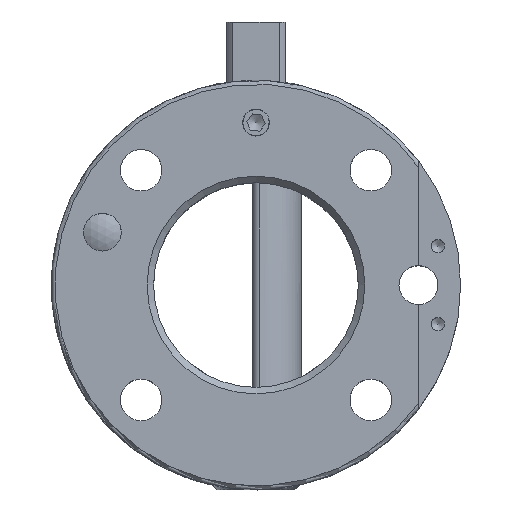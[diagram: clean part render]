
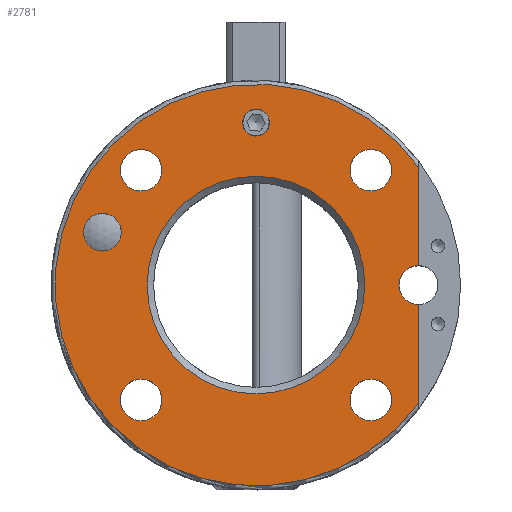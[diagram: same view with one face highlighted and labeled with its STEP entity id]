
A CAD part, top view. The second image highlights one B-rep face of the part: STEP entity #2781.
In plain terms, the highlighted planar face has unit normal (0, 0, 1).
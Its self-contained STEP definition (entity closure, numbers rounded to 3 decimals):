
#543=CARTESIAN_POINT('',(2.067,25.0,0.0));
#544=VERTEX_POINT('',#543);
#545=CARTESIAN_POINT('',(0.0,25.0,0.0));
#546=DIRECTION('',(0.0,0.0,-1.0));
#547=DIRECTION('',(1.0,0.0,0.0));
#548=AXIS2_PLACEMENT_3D('',#545,#546,#547);
#549=CIRCLE('',#548,2.067);
#550=EDGE_CURVE('',#544,#544,#549,.T.);
#2266=CARTESIAN_POINT('',(25.0,18.161,0.0));
#2267=VERTEX_POINT('',#2266);
#2282=CARTESIAN_POINT('',(25.0,-18.161,0.0));
#2283=VERTEX_POINT('',#2282);
#2297=CARTESIAN_POINT('',(0.0,0.0,0.0));
#2298=DIRECTION('',(0.0,0.0,-1.0));
#2299=DIRECTION('',(-1.0,0.0,0.0));
#2300=AXIS2_PLACEMENT_3D('',#2297,#2298,#2299);
#2301=CIRCLE('',#2300,30.9);
#2302=EDGE_CURVE('',#2283,#2267,#2301,.T.);
#2313=CARTESIAN_POINT('',(25.0,3.,0.0));
#2314=VERTEX_POINT('',#2313);
#2315=CARTESIAN_POINT('',(25.0,3.0,0.0));
#2316=DIRECTION('',(0.0,1.0,0.0));
#2317=VECTOR('',#2316,15.161);
#2318=LINE('',#2315,#2317);
#2319=EDGE_CURVE('',#2314,#2267,#2318,.T.);
#2347=CARTESIAN_POINT('',(-20.738,8.139,0.0));
#2348=VERTEX_POINT('',#2347);
#2349=CARTESIAN_POINT('',(-23.638,8.139,0.0));
#2350=DIRECTION('',(0.0,0.0,-1.0));
#2351=DIRECTION('',(-1.0,0.0,0.0));
#2352=AXIS2_PLACEMENT_3D('',#2349,#2350,#2351);
#2353=CIRCLE('',#2352,2.9);
#2354=EDGE_CURVE('',#2348,#2348,#2353,.T.);
#2404=CARTESIAN_POINT('',(-14.478,-17.678,0.0));
#2405=VERTEX_POINT('',#2404);
#2406=CARTESIAN_POINT('',(-17.678,-17.678,0.0));
#2407=DIRECTION('',(0.0,0.0,-1.0));
#2408=DIRECTION('',(-1.0,0.0,0.0));
#2409=AXIS2_PLACEMENT_3D('',#2406,#2407,#2408);
#2410=CIRCLE('',#2409,3.2);
#2411=EDGE_CURVE('',#2405,#2405,#2410,.T.);
#2464=CARTESIAN_POINT('',(-14.478,17.678,0.0));
#2465=VERTEX_POINT('',#2464);
#2466=CARTESIAN_POINT('',(-17.678,17.678,0.0));
#2467=DIRECTION('',(0.0,0.0,-1.0));
#2468=DIRECTION('',(-1.0,0.0,0.0));
#2469=AXIS2_PLACEMENT_3D('',#2466,#2467,#2468);
#2470=CIRCLE('',#2469,3.2);
#2471=EDGE_CURVE('',#2465,#2465,#2470,.T.);
#2530=CARTESIAN_POINT('',(20.878,17.678,0.0));
#2531=VERTEX_POINT('',#2530);
#2532=CARTESIAN_POINT('',(17.678,17.678,0.0));
#2533=DIRECTION('',(0.0,0.0,-1.0));
#2534=DIRECTION('',(-1.0,0.0,0.0));
#2535=AXIS2_PLACEMENT_3D('',#2532,#2533,#2534);
#2536=CIRCLE('',#2535,3.2);
#2537=EDGE_CURVE('',#2531,#2531,#2536,.T.);
#2590=CARTESIAN_POINT('',(20.878,-17.678,0.0));
#2591=VERTEX_POINT('',#2590);
#2592=CARTESIAN_POINT('',(17.678,-17.678,0.0));
#2593=DIRECTION('',(0.0,0.0,-1.0));
#2594=DIRECTION('',(-1.0,0.0,0.0));
#2595=AXIS2_PLACEMENT_3D('',#2592,#2593,#2594);
#2596=CIRCLE('',#2595,3.2);
#2597=EDGE_CURVE('',#2591,#2591,#2596,.T.);
#2694=CARTESIAN_POINT('',(25.0,-3.,0.0));
#2695=VERTEX_POINT('',#2694);
#2702=CARTESIAN_POINT('',(25.0,-18.161,0.0));
#2703=DIRECTION('',(0.0,1.0,0.0));
#2704=VECTOR('',#2703,15.161);
#2705=LINE('',#2702,#2704);
#2706=EDGE_CURVE('',#2283,#2695,#2705,.T.);
#2735=CARTESIAN_POINT('',(0.0,0.0,0.0));
#2736=DIRECTION('',(0.0,0.0,-1.0));
#2737=DIRECTION('',(-1.0,0.0,0.0));
#2738=AXIS2_PLACEMENT_3D('',#2735,#2736,#2737);
#2739=PLANE('',#2738);
#2740=ORIENTED_EDGE('',*,*,#2302,.F.);
#2741=ORIENTED_EDGE('',*,*,#2706,.T.);
#2742=CARTESIAN_POINT('',(25.0,0.0,0.0));
#2743=DIRECTION('',(0.0,0.0,-1.0));
#2744=DIRECTION('',(1.0,0.0,0.0));
#2745=AXIS2_PLACEMENT_3D('',#2742,#2743,#2744);
#2746=CIRCLE('',#2745,3.);
#2747=EDGE_CURVE('',#2695,#2314,#2746,.T.);
#2748=ORIENTED_EDGE('',*,*,#2747,.T.);
#2749=ORIENTED_EDGE('',*,*,#2319,.T.);
#2750=EDGE_LOOP('',(#2740,#2741,#2748,#2749));
#2751=FACE_OUTER_BOUND('',#2750,.T.);
#2752=ORIENTED_EDGE('',*,*,#2354,.T.);
#2753=EDGE_LOOP('',(#2752));
#2754=FACE_BOUND('',#2753,.T.);
#2755=ORIENTED_EDGE('',*,*,#2411,.T.);
#2756=EDGE_LOOP('',(#2755));
#2757=FACE_BOUND('',#2756,.T.);
#2758=ORIENTED_EDGE('',*,*,#2471,.T.);
#2759=EDGE_LOOP('',(#2758));
#2760=FACE_BOUND('',#2759,.T.);
#2761=ORIENTED_EDGE('',*,*,#2537,.T.);
#2762=EDGE_LOOP('',(#2761));
#2763=FACE_BOUND('',#2762,.T.);
#2764=ORIENTED_EDGE('',*,*,#2597,.T.);
#2765=EDGE_LOOP('',(#2764));
#2766=FACE_BOUND('',#2765,.T.);
#2767=CARTESIAN_POINT('',(16.75,0.,0.0));
#2768=VERTEX_POINT('',#2767);
#2769=CARTESIAN_POINT('',(0.0,0.0,0.0));
#2770=DIRECTION('',(0.0,0.0,1.0));
#2771=DIRECTION('',(-1.0,0.0,0.0));
#2772=AXIS2_PLACEMENT_3D('',#2769,#2770,#2771);
#2773=CIRCLE('',#2772,16.75);
#2774=EDGE_CURVE('',#2768,#2768,#2773,.T.);
#2775=ORIENTED_EDGE('',*,*,#2774,.F.);
#2776=EDGE_LOOP('',(#2775));
#2777=FACE_BOUND('',#2776,.T.);
#2778=ORIENTED_EDGE('',*,*,#550,.T.);
#2779=EDGE_LOOP('',(#2778));
#2780=FACE_BOUND('',#2779,.T.);
#2781=ADVANCED_FACE('',(#2751,#2754,#2757,#2760,#2763,#2766,#2777,#2780),#2739,.F.);
